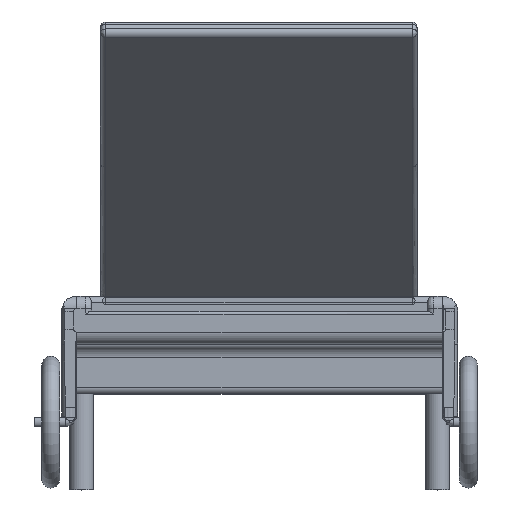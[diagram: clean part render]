
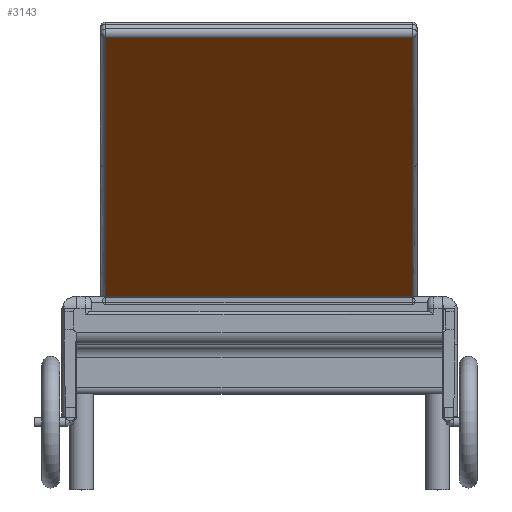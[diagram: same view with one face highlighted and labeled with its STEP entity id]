
A CAD part, top view. The second image highlights one B-rep face of the part: STEP entity #3143.
In plain terms, the highlighted planar face has unit normal (0, -0.783, 0.622).
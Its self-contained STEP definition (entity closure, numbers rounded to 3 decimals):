
#143=PLANE('',#3523);
#640=FACE_OUTER_BOUND('',#854,.T.);
#854=EDGE_LOOP('',(#2825,#2826,#2827,#2828));
#1044=LINE('',#7663,#1201);
#1046=LINE('',#7678,#1203);
#1047=LINE('',#7867,#1204);
#1048=LINE('',#7868,#1205);
#1201=VECTOR('',#4342,10.);
#1203=VECTOR('',#4352,8.);
#1204=VECTOR('',#4367,10.);
#1205=VECTOR('',#4368,10.);
#1480=VERTEX_POINT('',#7659);
#1481=VERTEX_POINT('',#7661);
#1484=VERTEX_POINT('',#7676);
#1485=VERTEX_POINT('',#7866);
#1924=EDGE_CURVE('',#1481,#1480,#1044,.T.);
#1929=EDGE_CURVE('',#1484,#1481,#1046,.T.);
#1935=EDGE_CURVE('',#1485,#1480,#1047,.T.);
#1936=EDGE_CURVE('',#1485,#1484,#1048,.T.);
#2825=ORIENTED_EDGE('',*,*,#1935,.T.);
#2826=ORIENTED_EDGE('',*,*,#1924,.F.);
#2827=ORIENTED_EDGE('',*,*,#1929,.F.);
#2828=ORIENTED_EDGE('',*,*,#1936,.F.);
#3143=ADVANCED_FACE('',(#640),#143,.T.);
#3523=AXIS2_PLACEMENT_3D('',#7865,#4365,#4366);
#4342=DIRECTION('',(0.,-0.622,-0.783));
#4352=DIRECTION('',(1.,0.,0.));
#4365=DIRECTION('center_axis',(0.,-0.783,0.622));
#4366=DIRECTION('ref_axis',(1.,0.,0.));
#4367=DIRECTION('',(1.,0.,0.));
#4368=DIRECTION('',(0.,0.622,0.783));
#7659=CARTESIAN_POINT('',(254.5,320.,-500.27));
#7661=CARTESIAN_POINT('',(254.5,751.07,42.134));
#7663=CARTESIAN_POINT('',(254.5,640.633,-96.826));
#7676=CARTESIAN_POINT('',(-257.5,751.07,42.134));
#7678=CARTESIAN_POINT('',(-1.5,751.07,42.134));
#7865=CARTESIAN_POINT('Origin',(-1.5,757.292,49.962));
#7866=CARTESIAN_POINT('',(-257.5,320.,-500.27));
#7867=CARTESIAN_POINT('',(-0.75,320.,-500.27));
#7868=CARTESIAN_POINT('',(-257.5,640.633,-96.826));
